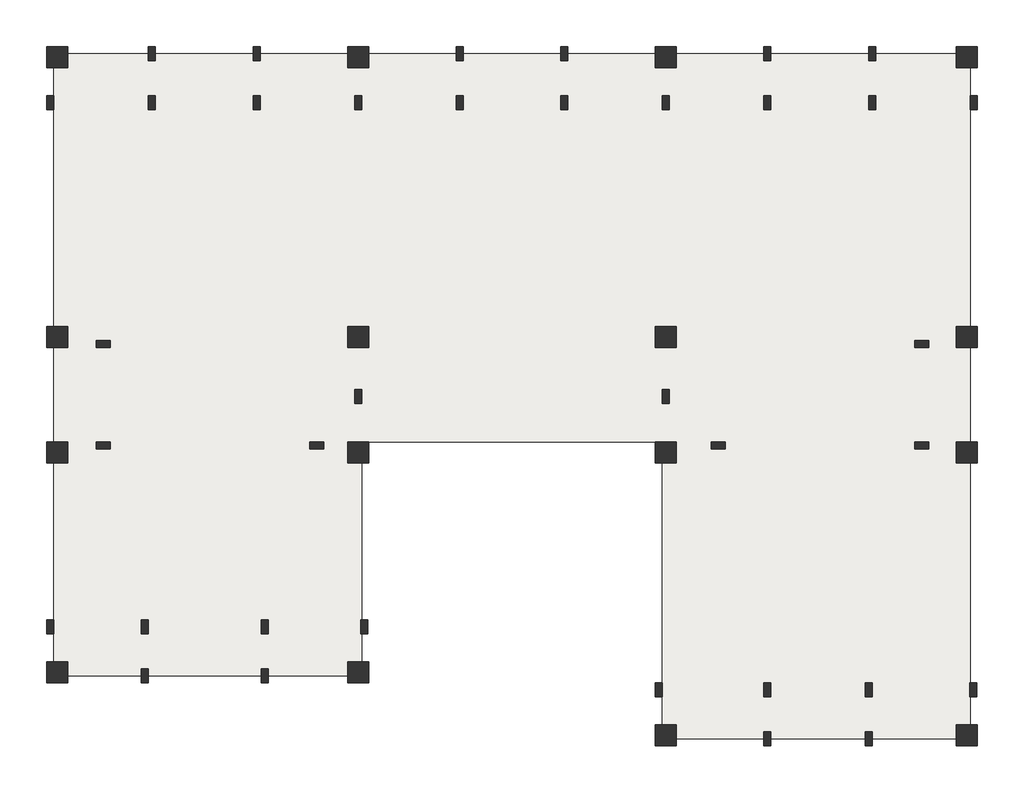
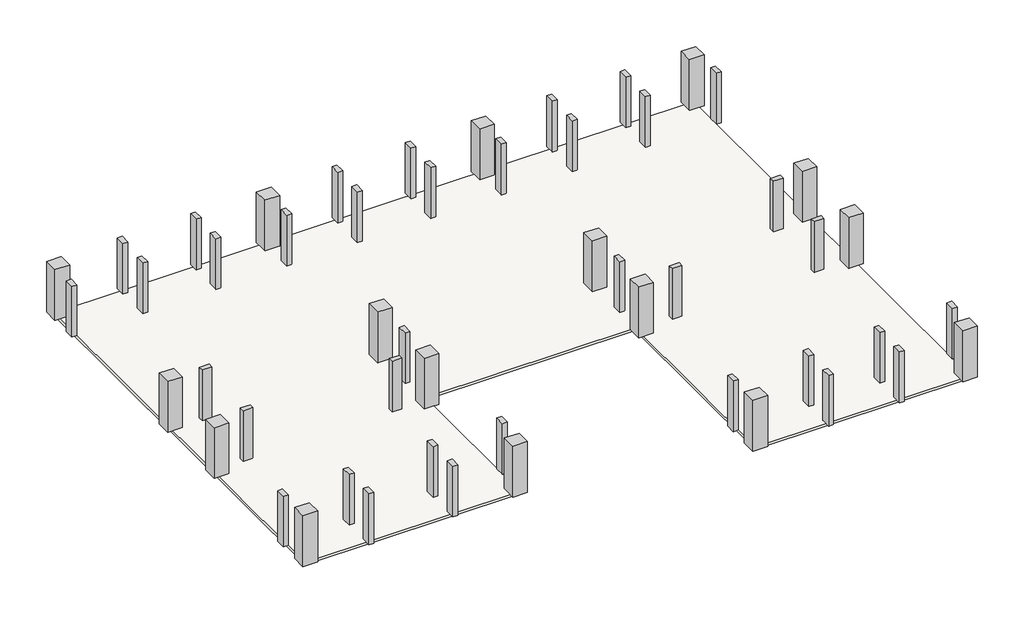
# One storey: 52 columns, 1 slab.
"""IFC4 building model written with IfcOpenShell, lengths in millimetres."""

from ifc_helpers import new_model, si_unit, frame, origin, place, context, project, spatial, polyline, outline, extrude, transform, mapped, element, save
from components import column_200x400_70d5f7f0, column_600x600_b5a9a02c

model = new_model("IFC4")

# Units and contexts
model_context = context("Model", 3, world=origin())
ifc_project = project(units=[si_unit("LENGTHUNIT", "METRE", prefix="MILLI")], contexts=[model_context])

# Site, building, storey
site = spatial("IfcSite", under=ifc_project)
building = spatial("IfcBuilding", under=site)
storey = spatial("IfcBuildingStorey", under=building, Name="标高 7", Elevation=18800.0)

# Columns
placement = place(None, origin())
column_200x400_shape = column_200x400_70d5f7f0(model_context)
element("IfcColumn", 1, ObjectType="混凝土 - 矩形 - 柱 : 200x400", at=placement, inside=storey, context=model_context, shape_type="MappedRepresentation", body=[
    mapped(column_200x400_shape, transform((-12581.7675258, 7863.3274984, 0.0), x_axis=(1.0, 0.0, 0.0), y_axis=(0.0, 1.0, 0.0), z_axis=(0.0, 0.0, 1.0))),
])
element("IfcColumn", 2, ObjectType="混凝土 - 矩形 - 柱 : 200x400", at=placement, inside=storey, context=model_context, shape_type="MappedRepresentation", body=[
    mapped(column_200x400_shape, transform((-9681.7675258, 7863.3274984, 0.0), x_axis=(1.0, 0.0, 0.0), y_axis=(0.0, 1.0, 0.0), z_axis=(0.0, 0.0, 1.0))),
])
element("IfcColumn", 3, ObjectType="混凝土 - 矩形 - 柱 : 200x400", at=placement, inside=storey, context=model_context, shape_type="MappedRepresentation", body=[
    mapped(column_200x400_shape, transform((-6681.7675258, 7863.3274984, 0.0), x_axis=(1.0, 0.0, 0.0), y_axis=(0.0, 1.0, 0.0), z_axis=(0.0, 0.0, 1.0))),
])
element("IfcColumn", 4, ObjectType="混凝土 - 矩形 - 柱 : 200x400", at=placement, inside=storey, context=model_context, shape_type="MappedRepresentation", body=[
    mapped(column_200x400_shape, transform((-3781.7675258, 7863.3274984, 0.0), x_axis=(1.0, 0.0, 0.0), y_axis=(0.0, 1.0, 0.0), z_axis=(0.0, 0.0, 1.0))),
])
element("IfcColumn", 5, ObjectType="混凝土 - 矩形 - 柱 : 200x400", at=placement, inside=storey, context=model_context, shape_type="MappedRepresentation", body=[
    mapped(column_200x400_shape, transform((-881.7675258, 7863.3274984, 0.0), x_axis=(1.0, 0.0, 0.0), y_axis=(0.0, 1.0, 0.0), z_axis=(0.0, 0.0, 1.0))),
])
element("IfcColumn", 6, ObjectType="混凝土 - 矩形 - 柱 : 200x400", at=placement, inside=storey, context=model_context, shape_type="MappedRepresentation", body=[
    mapped(column_200x400_shape, transform((2118.2324742, 7863.3274984, 0.0), x_axis=(1.0, 0.0, 0.0), y_axis=(0.0, 1.0, 0.0), z_axis=(0.0, 0.0, 1.0))),
])
element("IfcColumn", 7, ObjectType="混凝土 - 矩形 - 柱 : 200x400", at=placement, inside=storey, context=model_context, shape_type="MappedRepresentation", body=[
    mapped(column_200x400_shape, transform((5018.2324742, 7863.3274984, 0.0), x_axis=(1.0, 0.0, 0.0), y_axis=(0.0, 1.0, 0.0), z_axis=(0.0, 0.0, 1.0))),
])
element("IfcColumn", 8, ObjectType="混凝土 - 矩形 - 柱 : 200x400", at=placement, inside=storey, context=model_context, shape_type="MappedRepresentation", body=[
    mapped(column_200x400_shape, transform((7918.2324742, 7863.3274984, 0.0), x_axis=(1.0, 0.0, 0.0), y_axis=(0.0, 1.0, 0.0), z_axis=(0.0, 0.0, 1.0))),
])
element("IfcColumn", 9, ObjectType="混凝土 - 矩形 - 柱 : 200x400", at=placement, inside=storey, context=model_context, shape_type="MappedRepresentation", body=[
    mapped(column_200x400_shape, transform((10918.2324742, 7863.3274984, 0.0), x_axis=(1.0, 0.0, 0.0), y_axis=(0.0, 1.0, 0.0), z_axis=(0.0, 0.0, 1.0))),
])
element("IfcColumn", 10, ObjectType="混凝土 - 矩形 - 柱 : 200x400", at=placement, inside=storey, context=model_context, shape_type="MappedRepresentation", body=[
    mapped(column_200x400_shape, transform((13818.2324742, 7863.3274984, 0.0), x_axis=(1.0, 0.0, 0.0), y_axis=(0.0, 1.0, 0.0), z_axis=(0.0, 0.0, 1.0))),
])
element("IfcColumn", 11, ObjectType="混凝土 - 矩形 - 柱 : 200x400", at=placement, inside=storey, context=model_context, shape_type="MappedRepresentation", body=[
    mapped(column_200x400_shape, transform((-9681.7675258, 9263.3274984, 0.0), x_axis=(1.0, 0.0, 0.0), y_axis=(0.0, 1.0, 0.0), z_axis=(0.0, 0.0, 1.0))),
])
element("IfcColumn", 12, ObjectType="混凝土 - 矩形 - 柱 : 200x400", at=placement, inside=storey, context=model_context, shape_type="MappedRepresentation", body=[
    mapped(column_200x400_shape, transform((-6681.7675258, 9263.3274984, 0.0), x_axis=(1.0, 0.0, 0.0), y_axis=(0.0, 1.0, 0.0), z_axis=(0.0, 0.0, 1.0))),
])
element("IfcColumn", 13, ObjectType="混凝土 - 矩形 - 柱 : 200x400", at=placement, inside=storey, context=model_context, shape_type="MappedRepresentation", body=[
    mapped(column_200x400_shape, transform((-881.7675258, 9263.3274984, 0.0), x_axis=(1.0, 0.0, 0.0), y_axis=(0.0, 1.0, 0.0), z_axis=(0.0, 0.0, 1.0))),
])
element("IfcColumn", 14, ObjectType="混凝土 - 矩形 - 柱 : 200x400", at=placement, inside=storey, context=model_context, shape_type="MappedRepresentation", body=[
    mapped(column_200x400_shape, transform((2118.2324742, 9263.3274984, 0.0), x_axis=(1.0, 0.0, 0.0), y_axis=(0.0, 1.0, 0.0), z_axis=(0.0, 0.0, 1.0))),
])
element("IfcColumn", 15, ObjectType="混凝土 - 矩形 - 柱 : 200x400", at=placement, inside=storey, context=model_context, shape_type="MappedRepresentation", body=[
    mapped(column_200x400_shape, transform((7918.2324742, 9263.3274984, 0.0), x_axis=(1.0, 0.0, 0.0), y_axis=(0.0, 1.0, 0.0), z_axis=(0.0, 0.0, 1.0))),
])
element("IfcColumn", 16, ObjectType="混凝土 - 矩形 - 柱 : 200x400", at=placement, inside=storey, context=model_context, shape_type="MappedRepresentation", body=[
    mapped(column_200x400_shape, transform((10918.2324742, 9263.3274984, 0.0), x_axis=(1.0, 0.0, 0.0), y_axis=(0.0, 1.0, 0.0), z_axis=(0.0, 0.0, 1.0))),
])
element("IfcColumn", 17, ObjectType="混凝土 - 矩形 - 柱 : 200x400", at=placement, inside=storey, context=model_context, shape_type="MappedRepresentation", body=[
    mapped(column_200x400_shape, transform((-11067.1101454, 963.3274984, 0.0), x_axis=(0.0, 1.0, 0.0), y_axis=(-1.0, 0.0, 0.0), z_axis=(0.0, 0.0, 1.0))),
])
element("IfcColumn", 18, ObjectType="混凝土 - 矩形 - 柱 : 200x400", at=placement, inside=storey, context=model_context, shape_type="MappedRepresentation", body=[
    mapped(column_200x400_shape, transform((-11067.1101454, -1936.6725016, 0.0), x_axis=(0.0, 1.0, 0.0), y_axis=(-1.0, 0.0, 0.0), z_axis=(0.0, 0.0, 1.0))),
])
element("IfcColumn", 19, ObjectType="混凝土 - 矩形 - 柱 : 200x400", at=placement, inside=storey, context=model_context, shape_type="MappedRepresentation", body=[
    mapped(column_200x400_shape, transform((12332.8898546, 963.3274984, 0.0), x_axis=(0.0, 1.0, 0.0), y_axis=(-1.0, 0.0, 0.0), z_axis=(0.0, 0.0, 1.0))),
])
element("IfcColumn", 20, ObjectType="混凝土 - 矩形 - 柱 : 200x400", at=placement, inside=storey, context=model_context, shape_type="MappedRepresentation", body=[
    mapped(column_200x400_shape, transform((12332.8898546, -1936.6725016, 0.0), x_axis=(0.0, 1.0, 0.0), y_axis=(-1.0, 0.0, 0.0), z_axis=(0.0, 0.0, 1.0))),
])
element("IfcColumn", 21, ObjectType="混凝土 - 矩形 - 柱 : 200x400", at=placement, inside=storey, context=model_context, shape_type="MappedRepresentation", body=[
    mapped(column_200x400_shape, transform((-4961.7675258, -1936.6725016, 0.0), x_axis=(0.0, 1.0, 0.0), y_axis=(-1.0, 0.0, 0.0), z_axis=(0.0, 0.0, 1.0))),
])
element("IfcColumn", 22, ObjectType="混凝土 - 矩形 - 柱 : 200x400", at=placement, inside=storey, context=model_context, shape_type="MappedRepresentation", body=[
    mapped(column_200x400_shape, transform((-3781.7675258, -536.6725016, 0.0), x_axis=(1.0, 0.0, 0.0), y_axis=(0.0, 1.0, 0.0), z_axis=(0.0, 0.0, 1.0))),
])
element("IfcColumn", 23, ObjectType="混凝土 - 矩形 - 柱 : 200x400", at=placement, inside=storey, context=model_context, shape_type="MappedRepresentation", body=[
    mapped(column_200x400_shape, transform((5018.2324742, -536.6725016, 0.0), x_axis=(1.0, 0.0, 0.0), y_axis=(0.0, 1.0, 0.0), z_axis=(0.0, 0.0, 1.0))),
])
element("IfcColumn", 24, ObjectType="混凝土 - 矩形 - 柱 : 200x400", at=placement, inside=storey, context=model_context, shape_type="MappedRepresentation", body=[
    mapped(column_200x400_shape, transform((6518.2324742, -1936.6725016, 0.0), x_axis=(0.0, 1.0, 0.0), y_axis=(-1.0, 0.0, 0.0), z_axis=(0.0, 0.0, 1.0))),
])
element("IfcColumn", 25, ObjectType="混凝土 - 矩形 - 柱 : 200x400", at=placement, inside=storey, context=model_context, shape_type="MappedRepresentation", body=[
    mapped(column_200x400_shape, transform((-12581.7675258, -7136.6725016, 0.0), x_axis=(-1.0, 0.0, 0.0), y_axis=(0.0, -1.0, 0.0), z_axis=(0.0, 0.0, 1.0))),
])
element("IfcColumn", 26, ObjectType="混凝土 - 矩形 - 柱 : 200x400", at=placement, inside=storey, context=model_context, shape_type="MappedRepresentation", body=[
    mapped(column_200x400_shape, transform((-9881.7675258, -7136.6725016, 0.0), x_axis=(-1.0, 0.0, 0.0), y_axis=(0.0, -1.0, 0.0), z_axis=(0.0, 0.0, 1.0))),
])
element("IfcColumn", 27, ObjectType="混凝土 - 矩形 - 柱 : 200x400", at=placement, inside=storey, context=model_context, shape_type="MappedRepresentation", body=[
    mapped(column_200x400_shape, transform((-6441.7675258, -7136.6725016, 0.0), x_axis=(-1.0, 0.0, 0.0), y_axis=(0.0, -1.0, 0.0), z_axis=(0.0, 0.0, 1.0))),
])
element("IfcColumn", 28, ObjectType="混凝土 - 矩形 - 柱 : 200x400", at=placement, inside=storey, context=model_context, shape_type="MappedRepresentation", body=[
    mapped(column_200x400_shape, transform((-3601.7675258, -7136.6725016, 0.0), x_axis=(-1.0, 0.0, 0.0), y_axis=(0.0, -1.0, 0.0), z_axis=(0.0, 0.0, 1.0))),
])
element("IfcColumn", 29, ObjectType="混凝土 - 矩形 - 柱 : 200x400", at=placement, inside=storey, context=model_context, shape_type="MappedRepresentation", body=[
    mapped(column_200x400_shape, transform((-9881.7675258, -8536.6725016, 0.0), x_axis=(-1.0, 0.0, 0.0), y_axis=(0.0, -1.0, 0.0), z_axis=(0.0, 0.0, 1.0))),
])
element("IfcColumn", 30, ObjectType="混凝土 - 矩形 - 柱 : 200x400", at=placement, inside=storey, context=model_context, shape_type="MappedRepresentation", body=[
    mapped(column_200x400_shape, transform((-6441.7675258, -8536.6725016, 0.0), x_axis=(-1.0, 0.0, 0.0), y_axis=(0.0, -1.0, 0.0), z_axis=(0.0, 0.0, 1.0))),
])
element("IfcColumn", 31, ObjectType="混凝土 - 矩形 - 柱 : 200x400", at=placement, inside=storey, context=model_context, shape_type="MappedRepresentation", body=[
    mapped(column_200x400_shape, transform((4818.2324742, -8936.6725016, 0.0), x_axis=(-1.0, 0.0, 0.0), y_axis=(0.0, -1.0, 0.0), z_axis=(0.0, 0.0, 1.0))),
])
element("IfcColumn", 32, ObjectType="混凝土 - 矩形 - 柱 : 200x400", at=placement, inside=storey, context=model_context, shape_type="MappedRepresentation", body=[
    mapped(column_200x400_shape, transform((7918.2324742, -8936.6725016, 0.0), x_axis=(-1.0, 0.0, 0.0), y_axis=(0.0, -1.0, 0.0), z_axis=(0.0, 0.0, 1.0))),
])
element("IfcColumn", 33, ObjectType="混凝土 - 矩形 - 柱 : 200x400", at=placement, inside=storey, context=model_context, shape_type="MappedRepresentation", body=[
    mapped(column_200x400_shape, transform((10818.2324742, -8936.6725016, 0.0), x_axis=(-1.0, 0.0, 0.0), y_axis=(0.0, -1.0, 0.0), z_axis=(0.0, 0.0, 1.0))),
])
element("IfcColumn", 34, ObjectType="混凝土 - 矩形 - 柱 : 200x400", at=placement, inside=storey, context=model_context, shape_type="MappedRepresentation", body=[
    mapped(column_200x400_shape, transform((13798.2324742, -8936.6725016, 0.0), x_axis=(-1.0, 0.0, 0.0), y_axis=(0.0, -1.0, 0.0), z_axis=(0.0, 0.0, 1.0))),
])
element("IfcColumn", 35, ObjectType="混凝土 - 矩形 - 柱 : 200x400", at=placement, inside=storey, context=model_context, shape_type="MappedRepresentation", body=[
    mapped(column_200x400_shape, transform((7918.2324742, -10336.6725016, 0.0), x_axis=(-1.0, 0.0, 0.0), y_axis=(0.0, -1.0, 0.0), z_axis=(0.0, 0.0, 1.0))),
])
element("IfcColumn", 36, ObjectType="混凝土 - 矩形 - 柱 : 200x400", at=placement, inside=storey, context=model_context, shape_type="MappedRepresentation", body=[
    mapped(column_200x400_shape, transform((10818.2324742, -10336.6725016, 0.0), x_axis=(-1.0, 0.0, 0.0), y_axis=(0.0, -1.0, 0.0), z_axis=(0.0, 0.0, 1.0))),
])
column_600x600_shape = column_600x600_b5a9a02c(model_context)
element("IfcColumn", 37, ObjectType="混凝土 - 矩形 - 柱 : 600x600", at=placement, inside=storey, context=model_context, shape_type="MappedRepresentation", body=[
    mapped(column_600x600_shape, transform((-12381.7675258, -8436.6725016, 0.0), x_axis=(1.0, 0.0, 0.0), y_axis=(0.0, 1.0, 0.0), z_axis=(0.0, 0.0, 1.0))),
])
element("IfcColumn", 38, ObjectType="混凝土 - 矩形 - 柱 : 600x600", at=placement, inside=storey, context=model_context, shape_type="MappedRepresentation", body=[
    mapped(column_600x600_shape, transform((-12381.7675258, -2136.6725016, 0.0), x_axis=(1.0, 0.0, 0.0), y_axis=(0.0, 1.0, 0.0), z_axis=(0.0, 0.0, 1.0))),
])
element("IfcColumn", 39, ObjectType="混凝土 - 矩形 - 柱 : 600x600", at=placement, inside=storey, context=model_context, shape_type="MappedRepresentation", body=[
    mapped(column_600x600_shape, transform((-12381.7675258, 1163.3274984, 0.0), x_axis=(1.0, 0.0, 0.0), y_axis=(0.0, 1.0, 0.0), z_axis=(0.0, 0.0, 1.0))),
])
element("IfcColumn", 40, ObjectType="混凝土 - 矩形 - 柱 : 600x600", at=placement, inside=storey, context=model_context, shape_type="MappedRepresentation", body=[
    mapped(column_600x600_shape, transform((-12381.7675258, 9163.3274984, 0.0), x_axis=(1.0, 0.0, 0.0), y_axis=(0.0, 1.0, 0.0), z_axis=(0.0, 0.0, 1.0))),
])
element("IfcColumn", 41, ObjectType="混凝土 - 矩形 - 柱 : 600x600", at=placement, inside=storey, context=model_context, shape_type="MappedRepresentation", body=[
    mapped(column_600x600_shape, transform((-3781.7675258, -8436.6725016, 0.0), x_axis=(1.0, 0.0, 0.0), y_axis=(0.0, 1.0, 0.0), z_axis=(0.0, 0.0, 1.0))),
])
element("IfcColumn", 42, ObjectType="混凝土 - 矩形 - 柱 : 600x600", at=placement, inside=storey, context=model_context, shape_type="MappedRepresentation", body=[
    mapped(column_600x600_shape, transform((-3781.7675258, -2136.6725016, 0.0), x_axis=(1.0, 0.0, 0.0), y_axis=(0.0, 1.0, 0.0), z_axis=(0.0, 0.0, 1.0))),
])
element("IfcColumn", 43, ObjectType="混凝土 - 矩形 - 柱 : 600x600", at=placement, inside=storey, context=model_context, shape_type="MappedRepresentation", body=[
    mapped(column_600x600_shape, transform((-3781.7675258, 1163.3274984, 0.0), x_axis=(1.0, 0.0, 0.0), y_axis=(0.0, 1.0, 0.0), z_axis=(0.0, 0.0, 1.0))),
])
element("IfcColumn", 44, ObjectType="混凝土 - 矩形 - 柱 : 600x600", at=placement, inside=storey, context=model_context, shape_type="MappedRepresentation", body=[
    mapped(column_600x600_shape, transform((-3781.7675258, 9163.3274984, 0.0), x_axis=(1.0, 0.0, 0.0), y_axis=(0.0, 1.0, 0.0), z_axis=(0.0, 0.0, 1.0))),
])
element("IfcColumn", 45, ObjectType="混凝土 - 矩形 - 柱 : 600x600", at=placement, inside=storey, context=model_context, shape_type="MappedRepresentation", body=[
    mapped(column_600x600_shape, transform((5018.2324742, -10236.6725016, 0.0), x_axis=(1.0, 0.0, 0.0), y_axis=(0.0, 1.0, 0.0), z_axis=(0.0, 0.0, 1.0))),
])
element("IfcColumn", 46, ObjectType="混凝土 - 矩形 - 柱 : 600x600", at=placement, inside=storey, context=model_context, shape_type="MappedRepresentation", body=[
    mapped(column_600x600_shape, transform((5018.2324742, -2136.6725016, 0.0), x_axis=(1.0, 0.0, 0.0), y_axis=(0.0, 1.0, 0.0), z_axis=(0.0, 0.0, 1.0))),
])
element("IfcColumn", 47, ObjectType="混凝土 - 矩形 - 柱 : 600x600", at=placement, inside=storey, context=model_context, shape_type="MappedRepresentation", body=[
    mapped(column_600x600_shape, transform((5018.2324742, 1163.3274984, 0.0), x_axis=(1.0, 0.0, 0.0), y_axis=(0.0, 1.0, 0.0), z_axis=(0.0, 0.0, 1.0))),
])
element("IfcColumn", 48, ObjectType="混凝土 - 矩形 - 柱 : 600x600", at=placement, inside=storey, context=model_context, shape_type="MappedRepresentation", body=[
    mapped(column_600x600_shape, transform((5018.2324742, 9163.3274984, 0.0), x_axis=(1.0, 0.0, 0.0), y_axis=(0.0, 1.0, 0.0), z_axis=(0.0, 0.0, 1.0))),
])
element("IfcColumn", 49, ObjectType="混凝土 - 矩形 - 柱 : 600x600", at=placement, inside=storey, context=model_context, shape_type="MappedRepresentation", body=[
    mapped(column_600x600_shape, transform((13618.2324742, -10236.6725016, 0.0), x_axis=(1.0, 0.0, 0.0), y_axis=(0.0, 1.0, 0.0), z_axis=(0.0, 0.0, 1.0))),
])
element("IfcColumn", 50, ObjectType="混凝土 - 矩形 - 柱 : 600x600", at=placement, inside=storey, context=model_context, shape_type="MappedRepresentation", body=[
    mapped(column_600x600_shape, transform((13618.2324742, -2136.6725016, 0.0), x_axis=(1.0, 0.0, 0.0), y_axis=(0.0, 1.0, 0.0), z_axis=(0.0, 0.0, 1.0))),
])
element("IfcColumn", 51, ObjectType="混凝土 - 矩形 - 柱 : 600x600", at=placement, inside=storey, context=model_context, shape_type="MappedRepresentation", body=[
    mapped(column_600x600_shape, transform((13618.2324742, 1163.3274984, 0.0), x_axis=(1.0, 0.0, 0.0), y_axis=(0.0, 1.0, 0.0), z_axis=(0.0, 0.0, 1.0))),
])
element("IfcColumn", 52, ObjectType="混凝土 - 矩形 - 柱 : 600x600", at=placement, inside=storey, context=model_context, shape_type="MappedRepresentation", body=[
    mapped(column_600x600_shape, transform((13618.2324742, 9163.3274984, 0.0), x_axis=(1.0, 0.0, 0.0), y_axis=(0.0, 1.0, 0.0), z_axis=(0.0, 0.0, 1.0))),
])

# Slab
element("IfcSlab", 53, ObjectType="楼板-120", at=placement, inside=storey, context=model_context, shape_type="SweptSolid", body=[
    extrude(outline(polyline([(13718.2324742, 9263.3274984), (13718.2324742, -10336.6725016), (4918.2324742, -10336.6725016), (4918.2324742, -1836.6725016), (-3681.7675258, -1836.6725016), (-3681.7675258, -8536.6725016), (-12481.7675258, -8536.6725016), (-12481.7675258, 9263.3274984), (13718.2324742, 9263.3274984)])), frame((0.0, 0.0, 18680.0), z_axis=(0.0, 0.0, 1.0), x_axis=(1.0, 0.0, 0.0)), (0.0, 0.0, 1.0), 120.0),
])

save(model, "model.ifc")
